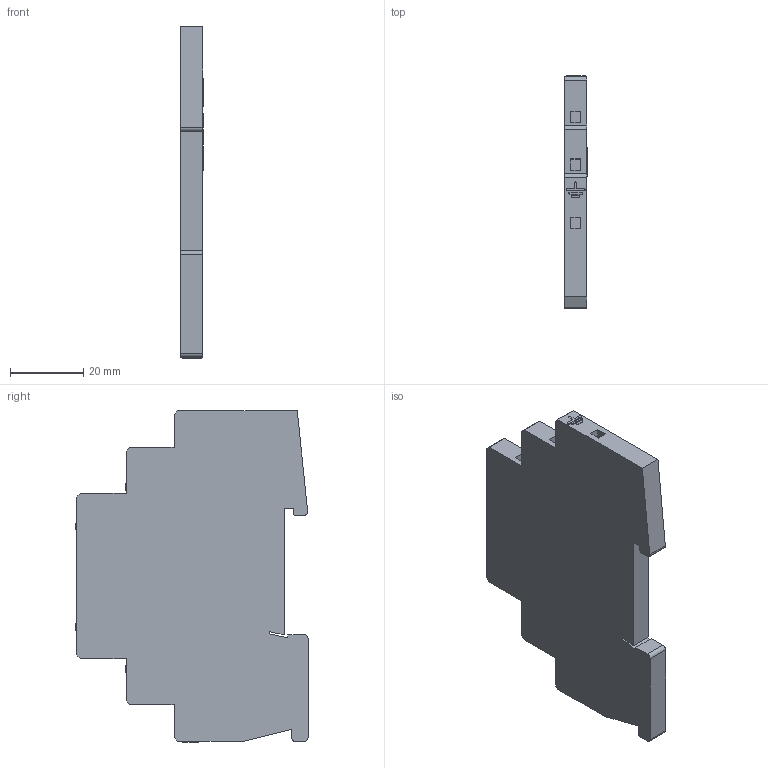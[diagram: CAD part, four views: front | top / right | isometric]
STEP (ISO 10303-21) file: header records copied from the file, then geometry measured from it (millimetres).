
FILE_DESCRIPTION(('TFLEX Exchange Step'),'2;1');
FILE_NAME('X2\041004400442\X0\.200.002.stp', '2022-07-15T15:45:41+03:00',('Pavel Oborin'),('Unknown organisation'),'TFLEX Exchange 2019.2','T-FLEX CAD','Unknown authorisation');
FILE_SCHEMA( ('AUTOMOTIVE_DESIGN { 1 0 10303 214 1 1 1 1 }') );
Length unit declared in the file: millimetre
Products named in the file (7): 0; <Винты нормальные>Винт ГОСТ Р 50405-92; <Винты нормальные>Винт ГОСТ Р 50405-92:3; <Винты нормальные>Винт ГОСТ Р 50405-92:2; <Винты нормальные>Винт ГОСТ Р 50405-92:1; Арт.200.002
Assembly tree (8 placements, depth 3):
  Арт.200.002
    0
    <Винты нормальные>Винт ГОСТ Р 50405-92  x3
      <Винты нормальные>Винт ГОСТ Р 50405-92
    <Винты нормальные>Винт ГОСТ Р 50405-92:3
    <Винты нормальные>Винт ГОСТ Р 50405-92:2
    <Винты нормальные>Винт ГОСТ Р 50405-92:1
Bounding box: 6.2 x 63.2 x 90.4 mm (x, y, z)
Volume: 26185.6 mm3; surface area: 12396.9 mm2
Topology: 37 solids, 37 shells, 556 faces, 1389 edges, 926 vertices
Faces by surface type: plane 321, bspline 173, cylinder 47, torus 12, cone 3
Entity records: 18397 total; most frequent: CARTESIAN_POINT 6764, ORIENTED_EDGE 2646, DIRECTION 1794, EDGE_CURVE 1323, VERTEX_POINT 882, VECTOR 854, LINE 854, EDGE_LOOP 555
